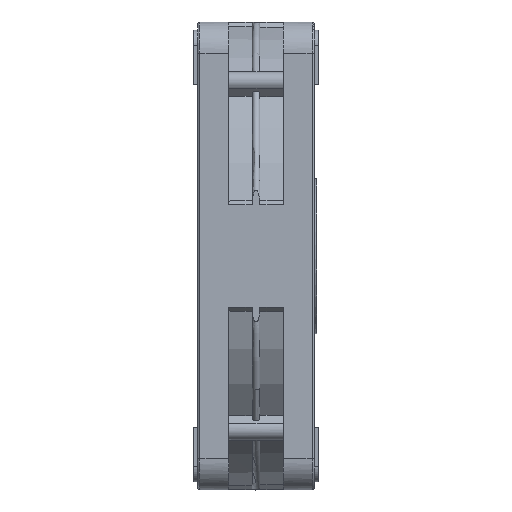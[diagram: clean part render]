
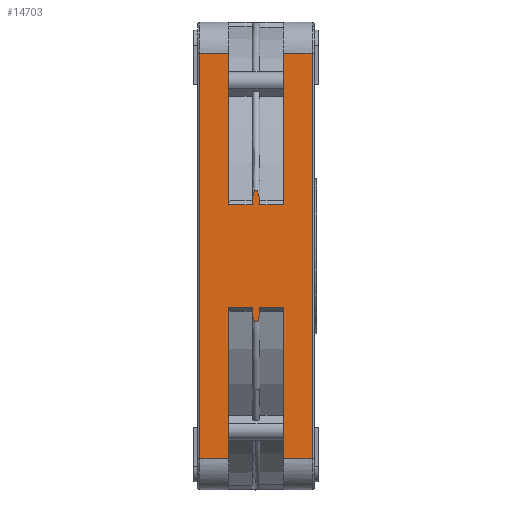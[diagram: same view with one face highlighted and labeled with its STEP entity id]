
A CAD part, left-side view. The second image highlights one B-rep face of the part: STEP entity #14703.
In plain terms, the highlighted planar face has unit normal (-1, 0, 0).
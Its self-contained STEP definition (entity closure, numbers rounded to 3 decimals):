
#913=B_SPLINE_CURVE_WITH_KNOTS('',3,(#22931,#22932,#22933,#22934),
 .UNSPECIFIED.,.F.,.F.,(4,4),(0.,1.),.UNSPECIFIED.);
#918=B_SPLINE_CURVE_WITH_KNOTS('',3,(#22972,#22973,#22974,#22975,#22976,
#22977,#22978,#22979,#22980),.UNSPECIFIED.,.F.,.F.,(4,1,1,1,1,1,4),(0.,
0.25,0.375,0.5,0.625,0.75,1.),.UNSPECIFIED.);
#919=B_SPLINE_CURVE_WITH_KNOTS('',3,(#22982,#22983,#22984,#22985,#22986,
#22987,#22988,#22989,#22990),.UNSPECIFIED.,.F.,.F.,(4,1,1,1,1,1,4),(0.,
0.25,0.5,0.625,0.75,0.875,1.),.UNSPECIFIED.);
#921=B_SPLINE_CURVE_WITH_KNOTS('',3,(#23001,#23002,#23003,#23004,#23005,
#23006,#23007,#23008,#23009),.UNSPECIFIED.,.F.,.F.,(4,1,1,1,1,1,4),(0.,
0.25,0.375,0.5,0.625,0.75,1.),.UNSPECIFIED.);
#922=B_SPLINE_CURVE_WITH_KNOTS('',3,(#23011,#23012,#23013,#23014,#23015,
#23016,#23017,#23018,#23019),.UNSPECIFIED.,.F.,.F.,(4,1,1,1,1,1,4),(0.,
0.25,0.375,0.5,0.625,0.75,1.),.UNSPECIFIED.);
#923=B_SPLINE_CURVE_WITH_KNOTS('',3,(#23023,#23024,#23025,#23026),
 .UNSPECIFIED.,.F.,.F.,(4,4),(0.,1.),.UNSPECIFIED.);
#3357=ORIENTED_EDGE('',*,*,#7172,.F.);
#3358=ORIENTED_EDGE('',*,*,#7170,.F.);
#3359=ORIENTED_EDGE('',*,*,#7169,.F.);
#3360=ORIENTED_EDGE('',*,*,#7167,.F.);
#3361=ORIENTED_EDGE('',*,*,#7423,.F.);
#3362=ORIENTED_EDGE('',*,*,#7467,.F.);
#3363=ORIENTED_EDGE('',*,*,#7492,.F.);
#3364=ORIENTED_EDGE('',*,*,#7490,.F.);
#3365=ORIENTED_EDGE('',*,*,#7493,.T.);
#3366=ORIENTED_EDGE('',*,*,#7177,.F.);
#3367=ORIENTED_EDGE('',*,*,#7165,.F.);
#3368=ORIENTED_EDGE('',*,*,#7164,.F.);
#3369=ORIENTED_EDGE('',*,*,#7159,.F.);
#3370=ORIENTED_EDGE('',*,*,#7337,.F.);
#3371=ORIENTED_EDGE('',*,*,#7347,.F.);
#3372=ORIENTED_EDGE('',*,*,#7494,.F.);
#3373=ORIENTED_EDGE('',*,*,#7339,.F.);
#3374=ORIENTED_EDGE('',*,*,#7329,.F.);
#7159=EDGE_CURVE('',#9340,#9193,#913,.T.);
#7164=EDGE_CURVE('',#9193,#9345,#918,.F.);
#7165=EDGE_CURVE('',#9345,#9342,#919,.F.);
#7167=EDGE_CURVE('',#9346,#9347,#10694,.T.);
#7169=EDGE_CURVE('',#9347,#9348,#921,.F.);
#7170=EDGE_CURVE('',#9348,#9199,#922,.F.);
#7172=EDGE_CURVE('',#9199,#9349,#923,.T.);
#7177=EDGE_CURVE('',#9342,#9353,#10698,.T.);
#7329=EDGE_CURVE('',#9349,#9467,#10765,.T.);
#7337=EDGE_CURVE('',#9472,#9340,#10768,.T.);
#7339=EDGE_CURVE('',#9467,#9474,#10770,.T.);
#7347=EDGE_CURVE('',#9479,#9472,#10775,.T.);
#7423=EDGE_CURVE('',#9548,#9346,#10803,.T.);
#7467=EDGE_CURVE('',#9580,#9548,#10826,.T.);
#7490=EDGE_CURVE('',#9589,#9590,#10839,.T.);
#7492=EDGE_CURVE('',#9590,#9580,#10840,.T.);
#7493=EDGE_CURVE('',#9589,#9353,#10841,.T.);
#7494=EDGE_CURVE('',#9474,#9479,#10842,.T.);
#9193=VERTEX_POINT('',#21772);
#9199=VERTEX_POINT('',#21861);
#9340=VERTEX_POINT('',#22930);
#9342=VERTEX_POINT('',#22941);
#9345=VERTEX_POINT('',#22981);
#9346=VERTEX_POINT('',#22993);
#9347=VERTEX_POINT('',#22995);
#9348=VERTEX_POINT('',#23010);
#9349=VERTEX_POINT('',#23022);
#9353=VERTEX_POINT('',#23043);
#9467=VERTEX_POINT('',#24156);
#9472=VERTEX_POINT('',#24203);
#9474=VERTEX_POINT('',#24209);
#9479=VERTEX_POINT('',#24225);
#9548=VERTEX_POINT('',#24645);
#9580=VERTEX_POINT('',#24796);
#9589=VERTEX_POINT('',#24863);
#9590=VERTEX_POINT('',#24865);
#10694=LINE('',#22994,#11615);
#10698=LINE('',#23042,#11619);
#10765=LINE('',#24155,#11686);
#10768=LINE('',#24204,#11689);
#10770=LINE('',#24208,#11691);
#10775=LINE('',#24224,#11696);
#10803=LINE('',#24646,#11724);
#10826=LINE('',#24795,#11747);
#10839=LINE('',#24864,#11760);
#10840=LINE('',#24868,#11761);
#10841=LINE('',#24869,#11762);
#10842=LINE('',#24870,#11763);
#11615=VECTOR('',#18006,1000.);
#11619=VECTOR('',#18018,1000.);
#11686=VECTOR('',#18175,1000.);
#11689=VECTOR('',#18180,1000.);
#11691=VECTOR('',#18184,1000.);
#11696=VECTOR('',#18201,1000.);
#11724=VECTOR('',#18265,1000.);
#11747=VECTOR('',#18326,1000.);
#11760=VECTOR('',#18359,1000.);
#11761=VECTOR('',#18364,1000.);
#11762=VECTOR('',#18365,1000.);
#11763=VECTOR('',#18366,1000.);
#12581=EDGE_LOOP('',(#3357,#3358,#3359,#3360,#3361,#3362,#3363,#3364,#3365,
#3366,#3367,#3368,#3369,#3370,#3371,#3372,#3373,#3374));
#13497=FACE_BOUND('',#12581,.T.);
#14285=PLANE('',#16701);
#14703=ADVANCED_FACE('',(#13497),#14285,.F.);
#16701=AXIS2_PLACEMENT_3D('',#24867,#18362,#18363);
#18006=DIRECTION('',(0.,1.,0.));
#18018=DIRECTION('',(0.,-1.,0.));
#18175=DIRECTION('',(0.,0.,-1.));
#18180=DIRECTION('',(0.,0.,-1.));
#18184=DIRECTION('',(0.,1.,0.));
#18201=DIRECTION('',(0.,-1.,0.));
#18265=DIRECTION('',(0.,0.,1.));
#18326=DIRECTION('',(0.,1.,0.));
#18359=DIRECTION('',(0.,-1.,0.));
#18362=DIRECTION('',(1.,0.,0.));
#18363=DIRECTION('',(0.,0.,-1.));
#18364=DIRECTION('',(0.,0.,-1.));
#18365=DIRECTION('',(0.,0.,-1.));
#18366=DIRECTION('',(0.,0.,1.));
#21772=CARTESIAN_POINT('',(-30.,7.999,6.567));
#21861=CARTESIAN_POINT('',(-30.,7.999,-6.567));
#22930=CARTESIAN_POINT('',(-30.,11.,6.566));
#22931=CARTESIAN_POINT('',(-30.,11.,6.566));
#22932=CARTESIAN_POINT('',(-30.,10.,6.566));
#22933=CARTESIAN_POINT('',(-30.,8.999,6.566));
#22934=CARTESIAN_POINT('',(-29.999,7.999,6.567));
#22941=CARTESIAN_POINT('',(-30.,7.002,6.566));
#22972=CARTESIAN_POINT('',(-30.,7.501,8.461));
#22973=CARTESIAN_POINT('',(-30.,7.575,8.46));
#22974=CARTESIAN_POINT('',(-30.,7.68,8.37));
#22975=CARTESIAN_POINT('',(-30.,7.801,8.106));
#22976=CARTESIAN_POINT('',(-30.,7.883,7.801));
#22977=CARTESIAN_POINT('',(-30.,7.923,7.572));
#22978=CARTESIAN_POINT('',(-30.,7.973,7.192));
#22979=CARTESIAN_POINT('',(-30.,7.995,6.823));
#22980=CARTESIAN_POINT('',(-30.,7.999,6.567));
#22981=CARTESIAN_POINT('',(-30.,7.501,8.461));
#22982=CARTESIAN_POINT('',(-30.,7.002,6.566));
#22983=CARTESIAN_POINT('',(-30.,7.007,6.81));
#22984=CARTESIAN_POINT('',(-30.,7.032,7.264));
#22985=CARTESIAN_POINT('',(-30.,7.094,7.702));
#22986=CARTESIAN_POINT('',(-30.,7.187,8.056));
#22987=CARTESIAN_POINT('',(-30.,7.256,8.238));
#22988=CARTESIAN_POINT('',(-30.,7.377,8.426));
#22989=CARTESIAN_POINT('',(-30.,7.458,8.459));
#22990=CARTESIAN_POINT('',(-30.,7.501,8.461));
#22993=CARTESIAN_POINT('',(-30.,4.,-6.566));
#22994=CARTESIAN_POINT('',(-30.,15.,-6.566));
#22995=CARTESIAN_POINT('',(-30.,7.002,-6.566));
#23001=CARTESIAN_POINT('',(-30.,7.501,-8.461));
#23002=CARTESIAN_POINT('',(-30.,7.428,-8.461));
#23003=CARTESIAN_POINT('',(-30.,7.325,-8.375));
#23004=CARTESIAN_POINT('',(-30.,7.196,-8.097));
#23005=CARTESIAN_POINT('',(-30.,7.113,-7.773));
#23006=CARTESIAN_POINT('',(-30.,7.073,-7.537));
#23007=CARTESIAN_POINT('',(-30.,7.024,-7.141));
#23008=CARTESIAN_POINT('',(-30.,7.007,-6.809));
#23009=CARTESIAN_POINT('',(-30.,7.002,-6.566));
#23010=CARTESIAN_POINT('',(-30.,7.501,-8.461));
#23011=CARTESIAN_POINT('',(-30.,7.999,-6.567));
#23012=CARTESIAN_POINT('',(-30.,7.995,-6.814));
#23013=CARTESIAN_POINT('',(-30.,7.978,-7.15));
#23014=CARTESIAN_POINT('',(-30.,7.927,-7.549));
#23015=CARTESIAN_POINT('',(-30.,7.885,-7.79));
#23016=CARTESIAN_POINT('',(-30.,7.803,-8.103));
#23017=CARTESIAN_POINT('',(-30.,7.675,-8.378));
#23018=CARTESIAN_POINT('',(-30.,7.573,-8.461));
#23019=CARTESIAN_POINT('',(-30.,7.501,-8.461));
#23022=CARTESIAN_POINT('',(-30.,11.,-6.566));
#23023=CARTESIAN_POINT('',(-29.999,7.999,-6.567));
#23024=CARTESIAN_POINT('',(-30.,8.999,-6.566));
#23025=CARTESIAN_POINT('',(-30.,10.,-6.566));
#23026=CARTESIAN_POINT('',(-30.,11.,-6.566));
#23042=CARTESIAN_POINT('',(-30.,15.,6.566));
#23043=CARTESIAN_POINT('',(-30.,4.,6.566));
#24155=CARTESIAN_POINT('',(-30.,11.,30.));
#24156=CARTESIAN_POINT('',(-30.,11.,-26.));
#24203=CARTESIAN_POINT('',(-30.,11.,26.));
#24204=CARTESIAN_POINT('',(-30.,11.,30.));
#24208=CARTESIAN_POINT('',(-30.,15.,-26.));
#24209=CARTESIAN_POINT('',(-30.,14.7,-26.));
#24224=CARTESIAN_POINT('',(-30.,15.,26.));
#24225=CARTESIAN_POINT('',(-30.,14.7,26.));
#24645=CARTESIAN_POINT('',(-30.,4.,-26.));
#24646=CARTESIAN_POINT('',(-30.,4.,30.));
#24795=CARTESIAN_POINT('',(-30.,15.,-26.));
#24796=CARTESIAN_POINT('',(-30.,0.3,-26.));
#24863=CARTESIAN_POINT('',(-30.,4.,26.));
#24864=CARTESIAN_POINT('',(-30.,15.,26.));
#24865=CARTESIAN_POINT('',(-30.,0.3,26.));
#24867=CARTESIAN_POINT('',(-30.,15.,30.));
#24868=CARTESIAN_POINT('',(-30.,0.3,26.429));
#24869=CARTESIAN_POINT('',(-30.,4.,0.));
#24870=CARTESIAN_POINT('',(-30.,14.7,26.45));
